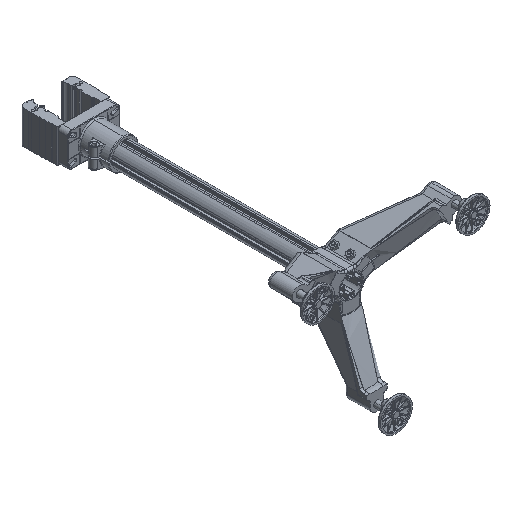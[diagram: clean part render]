
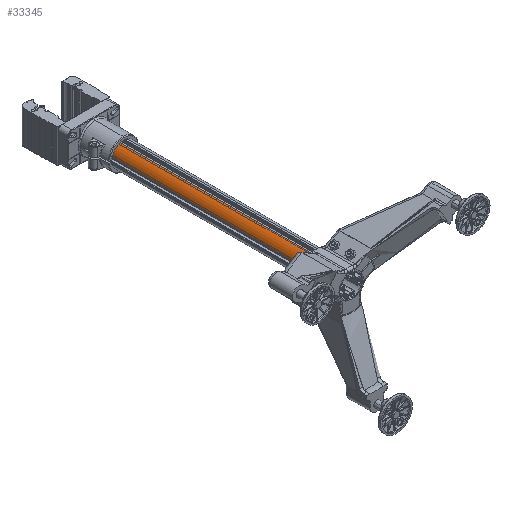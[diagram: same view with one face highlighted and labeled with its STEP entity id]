
A CAD part, isometric view. The second image highlights one B-rep face of the part: STEP entity #33345.
In plain terms, the highlighted cylindrical face has radius 30.15 mm (diameter 60.3 mm), a partial arc.
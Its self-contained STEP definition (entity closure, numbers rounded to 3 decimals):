
#21385 = CARTESIAN_POINT ( 'NONE',  ( -8.248, -662., -29. ) ) ;
#21401 = LINE ( 'NONE', #21385, #21860 ) ;
#21778 = DIRECTION ( 'NONE',  ( 0., 1., 0. ) ) ;
#21860 = VECTOR ( 'NONE', #21778, 1000. ) ;
#21913 = CARTESIAN_POINT ( 'NONE',  ( -8.248, -662., -29. ) ) ;
#22146 = CARTESIAN_POINT ( 'NONE',  ( -29., 0., -8.248 ) ) ;
#22171 = CARTESIAN_POINT ( 'NONE',  ( -29., -662., -8.248 ) ) ;
#22374 = DIRECTION ( 'NONE',  ( 0., 0., 1. ) ) ;
#22376 = DIRECTION ( 'NONE',  ( 0., 1., 0. ) ) ;
#22378 = CIRCLE ( 'NONE', #22478, 30.15 ) ;
#22384 = CARTESIAN_POINT ( 'NONE',  ( 0., -662., 0. ) ) ;
#22387 = AXIS2_PLACEMENT_3D ( 'NONE', #22384, #22376, #22374 ) ;
#22394 = CIRCLE ( 'NONE', #22395, 30.15 ) ;
#22395 = AXIS2_PLACEMENT_3D ( 'NONE', #22505, #22504, #22502 ) ;
#22402 = CYLINDRICAL_SURFACE ( 'NONE', #22387, 30.15 ) ;
#22435 = FACE_OUTER_BOUND ( 'NONE', #33360, .T. ) ;
#22452 = DIRECTION ( 'NONE',  ( 0., 1., 0. ) ) ;
#22453 = DIRECTION ( 'NONE',  ( 0., 0., 1. ) ) ;
#22464 = CARTESIAN_POINT ( 'NONE',  ( 0., 0., 0. ) ) ;
#22468 = DIRECTION ( 'NONE',  ( 0., 1., 0. ) ) ;
#22478 = AXIS2_PLACEMENT_3D ( 'NONE', #22464, #22468, #22453 ) ;
#22486 = VECTOR ( 'NONE', #22452, 1000. ) ;
#22488 = CARTESIAN_POINT ( 'NONE',  ( -29., -662., -8.248 ) ) ;
#22490 = LINE ( 'NONE', #22488, #22486 ) ;
#22502 = DIRECTION ( 'NONE',  ( 0., 0., 1. ) ) ;
#22504 = DIRECTION ( 'NONE',  ( 0., 1., 0. ) ) ;
#22505 = CARTESIAN_POINT ( 'NONE',  ( 0., -662., 0. ) ) ;
#22574 = CARTESIAN_POINT ( 'NONE',  ( -8.248, 0., -29. ) ) ;
#33302 = VERTEX_POINT ( 'NONE', #22171 ) ;
#33304 = VERTEX_POINT ( 'NONE', #22146 ) ;
#33307 = ORIENTED_EDGE ( 'NONE', *, *, #33365, .F. ) ;
#33345 = ADVANCED_FACE ( 'NONE', ( #22435 ), #22402, .T. ) ;
#33346 = ORIENTED_EDGE ( 'NONE', *, *, #33369, .F. ) ;
#33347 = ORIENTED_EDGE ( 'NONE', *, *, #33362, .T. ) ;
#33348 = EDGE_CURVE ( 'NONE', #33368, #33302, #22394, .T. ) ;
#33360 = EDGE_LOOP ( 'NONE', ( #33307, #33346, #33373, #33347 ) ) ;
#33362 = EDGE_CURVE ( 'NONE', #33302, #33304, #22490, .T. ) ;
#33365 = EDGE_CURVE ( 'NONE', #33371, #33304, #22378, .T. ) ;
#33368 = VERTEX_POINT ( 'NONE', #21913 ) ;
#33369 = EDGE_CURVE ( 'NONE', #33368, #33371, #21401, .T. ) ;
#33371 = VERTEX_POINT ( 'NONE', #22574 ) ;
#33373 = ORIENTED_EDGE ( 'NONE', *, *, #33348, .T. ) ;
